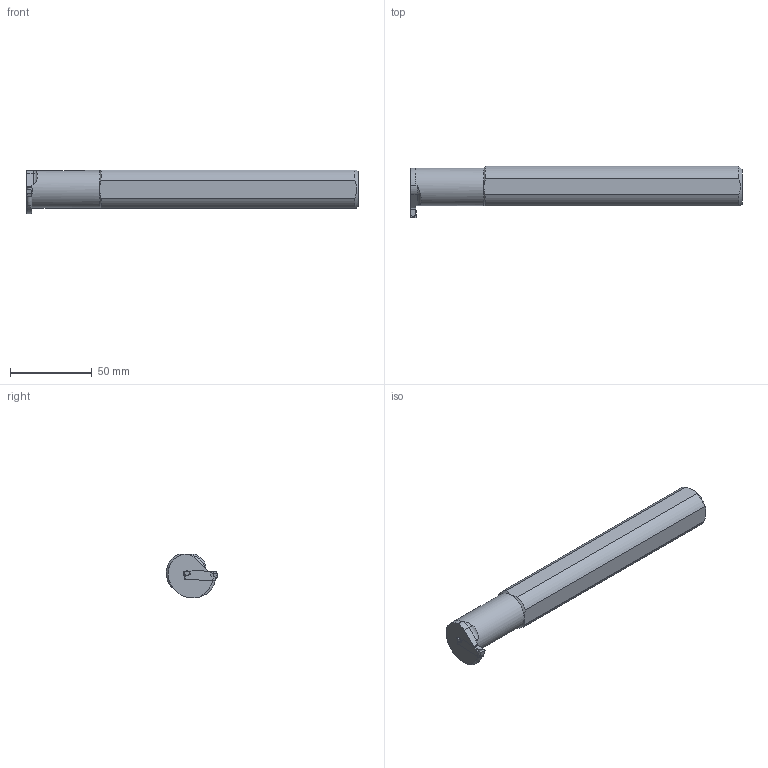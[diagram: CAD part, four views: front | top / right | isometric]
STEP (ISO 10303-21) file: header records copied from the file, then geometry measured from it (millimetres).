
FILE_DESCRIPTION(/* description */ (''),/* implementation_level */ '2;1');
FILE_NAME(/* name */ 'MGIVR20-16-4-HAAS_20200714.stp',/* time_stamp */ '2020-11-18T17:32:34+09:00',/* author */ (''),/* organization */ (''),/* preprocessor_version */ 'ST-DEVELOPER v11',/* originating_system */ 'SIEMENS UGS NX 6.0',/* authorisation */ '');
FILE_SCHEMA (('CONFIG_CONTROL_DESIGN'));
Length unit declared in the file: millimetre
Products named in the file (1): user6E78ysqw
Bounding box: 203.2 x 31.6 x 26.76 mm (x, y, z)
Volume: 87079.2 mm3; surface area: 21637 mm2
Topology: 2 solids, 2 shells, 62 faces, 164 edges, 106 vertices
Faces by surface type: plane 33, cylinder 22, cone 5, torus 2
Full cylindrical faces by diameter (mm): 1.6 x1, 8 x1, 23 x1
Entity records: 2013 total; most frequent: CARTESIAN_POINT 439, DIRECTION 311, ORIENTED_EDGE 302, EDGE_CURVE 151, AXIS2_PLACEMENT_3D 112, VERTEX_POINT 102, LINE 87, VECTOR 87
